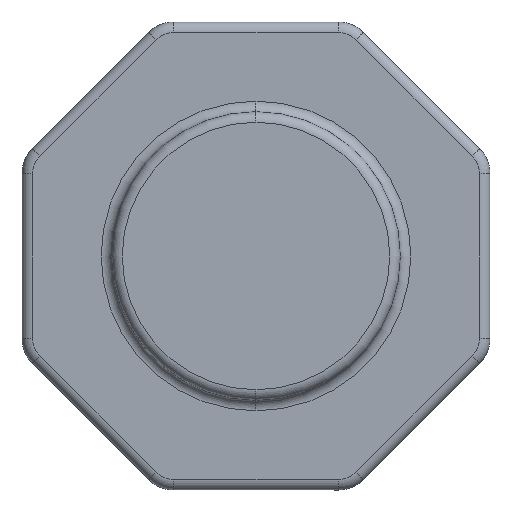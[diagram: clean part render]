
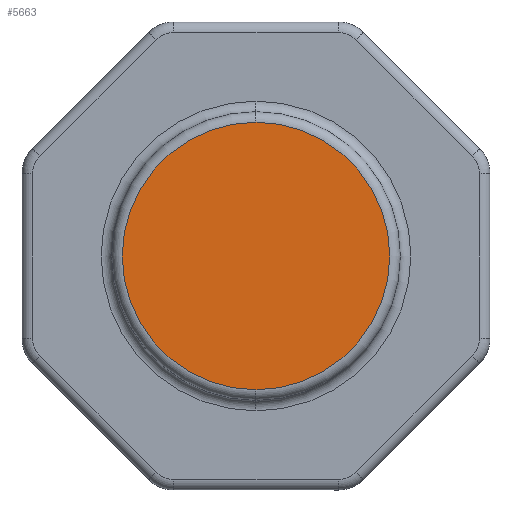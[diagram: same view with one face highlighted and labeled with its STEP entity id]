
A CAD part, front view. The second image highlights one B-rep face of the part: STEP entity #5663.
In plain terms, the highlighted planar face has unit normal (0, -1, 0).
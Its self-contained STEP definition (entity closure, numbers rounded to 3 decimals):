
#362 = EDGE_CURVE ( 'NONE', #5578, #5579, #4976, .T. ) ;
#4972 = DIRECTION ( 'NONE',  ( 0., 0., 1. ) ) ;
#4973 = DIRECTION ( 'NONE',  ( 0., -1., 0. ) ) ;
#4974 = CARTESIAN_POINT ( 'NONE',  ( 0., -15., 0. ) ) ;
#4975 = AXIS2_PLACEMENT_3D ( 'NONE', #4974, #4973, #4972 ) ;
#4976 = CIRCLE ( 'NONE', #4975, 38. ) ;
#5578 = VERTEX_POINT ( 'NONE', #10888 ) ;
#5579 = VERTEX_POINT ( 'NONE', #10882 ) ;
#5651 = EDGE_LOOP ( 'NONE', ( #5684, #5694 ) ) ;
#5661 = EDGE_CURVE ( 'NONE', #5579, #5578, #11033, .T. ) ;
#5663 = ADVANCED_FACE ( 'NONE', ( #11044 ), #11087, .F. ) ;
#5684 = ORIENTED_EDGE ( 'NONE', *, *, #5661, .T. ) ;
#5694 = ORIENTED_EDGE ( 'NONE', *, *, #362, .T. ) ;
#10882 = CARTESIAN_POINT ( 'NONE',  ( 0., -15., 38. ) ) ;
#10888 = CARTESIAN_POINT ( 'NONE',  ( 0., -15., -38. ) ) ;
#11033 = CIRCLE ( 'NONE', #11086, 38. ) ;
#11044 = FACE_OUTER_BOUND ( 'NONE', #5651, .T. ) ;
#11071 = DIRECTION ( 'NONE',  ( 0., 0., 1. ) ) ;
#11072 = DIRECTION ( 'NONE',  ( 0., 1., 0. ) ) ;
#11073 = CARTESIAN_POINT ( 'NONE',  ( -8.894, -15., 0. ) ) ;
#11074 = AXIS2_PLACEMENT_3D ( 'NONE', #11073, #11072, #11071 ) ;
#11078 = DIRECTION ( 'NONE',  ( 0., 0., 1. ) ) ;
#11079 = DIRECTION ( 'NONE',  ( 0., -1., 0. ) ) ;
#11086 = AXIS2_PLACEMENT_3D ( 'NONE', #11090, #11079, #11078 ) ;
#11087 = PLANE ( 'NONE',  #11074 ) ;
#11090 = CARTESIAN_POINT ( 'NONE',  ( 0., -15., 0. ) ) ;
